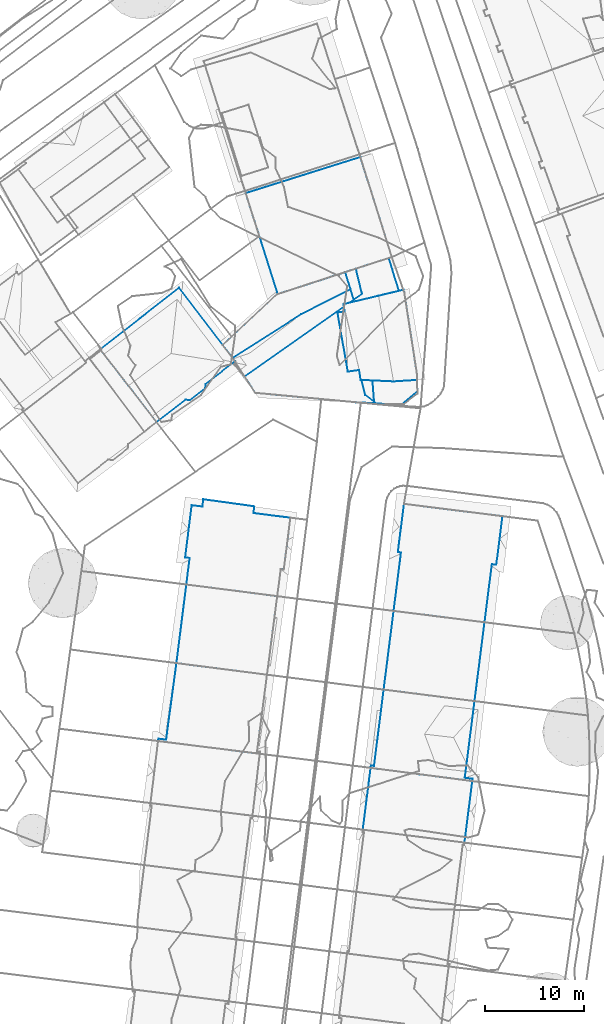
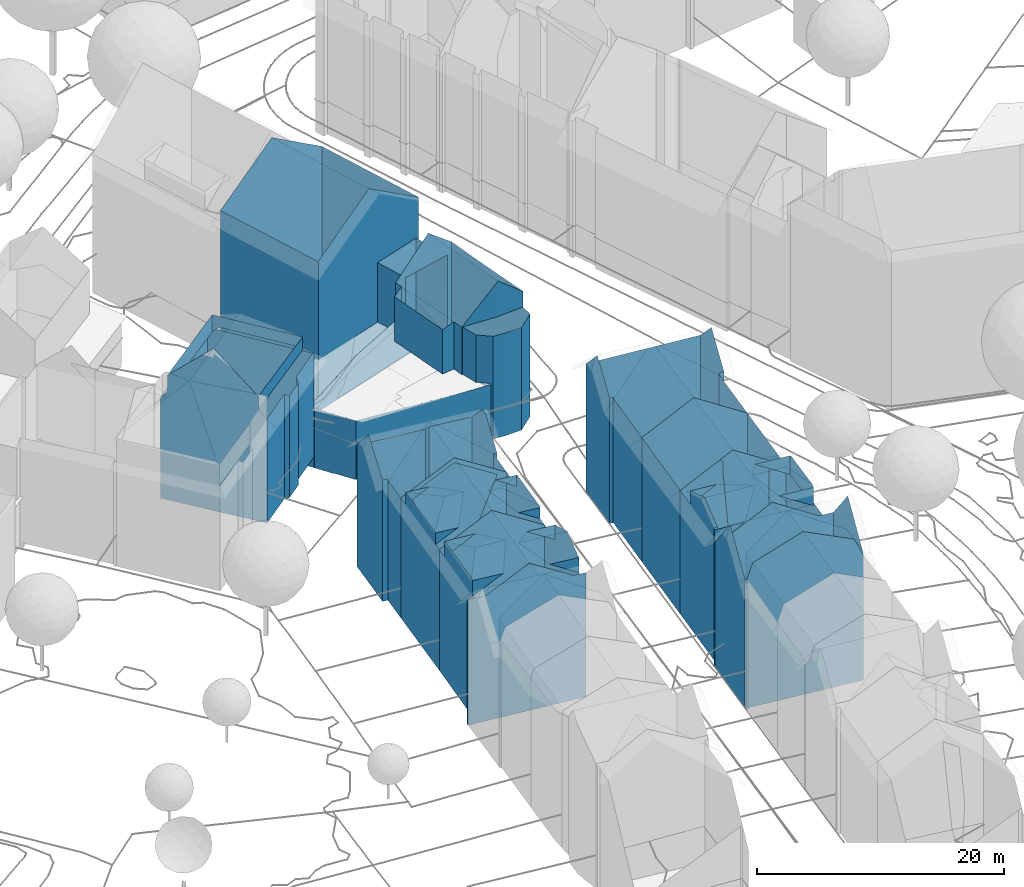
# Not in any storey, part 40 of 477: 10 walls.
"""IFC4 building model written with IfcOpenShell, lengths in metres."""

import ifcopenshell
import ifcopenshell.guid

model = None  # the IFC model being written
_history = None  # IfcOwnerHistory: only IFC2X3 demands one
_inside = {}  # id of a spatial element -> (the spatial element, [elements in it])
_under = {}  # id of a project, library or spatial element -> (it, [spatial elements below it])
_declared = {}  # id of a project -> (the project, [libraries it declares])
_typed = {}  # id of a type object -> (the type object, [elements of that type])
_made_of = {}  # id of a material, layer set ... -> (it, [elements and type objects made of it])


def new_model(schema):
    """Start an empty IFC model of exactly this schema.

    Asked for "IFC4X3", IfcOpenShell would pick the latest addendum, in which some entities
    have other attributes; the version numbers below select the first issue.
    IFC2X3 requires an IfcOwnerHistory on every rooted entity: one is made here for all.
    """
    global model, _history
    if schema == "IFC4X3":
        model = ifcopenshell.file(schema_version=(4, 3, 0, 0))
    else:
        model = ifcopenshell.file(schema=schema)
    _inside.clear()
    _under.clear()
    _declared.clear()
    _typed.clear()
    _made_of.clear()
    _history = None
    if model.schema == "IFC2X3":
        org = make("IfcOrganization", Name="unknown")
        user = make(
            "IfcPersonAndOrganization",
            ThePerson=make("IfcPerson", FamilyName="unknown"),
            TheOrganization=org,
        )
        app = make(
            "IfcApplication",
            ApplicationDeveloper=org,
            Version="unknown",
            ApplicationFullName="unknown",
            ApplicationIdentifier="unknown",
        )
        _history = make(
            "IfcOwnerHistory",
            OwningUser=user,
            OwningApplication=app,
            ChangeAction="ADDED",
            CreationDate=0,
        )
    return model


def make(cls, **values):
    """One entity of the class cls with the attributes given. An attribute that is None is left unset."""
    return model.create_entity(
        cls, **{name: value for name, value in values.items() if value is not None}
    )


def rooted(cls, **values):
    """An entity with a GlobalId (a new one), such as an element, a storey or a relation."""
    return make(cls, GlobalId=ifcopenshell.guid.new(), OwnerHistory=_history, **values)


def si_unit(unit_type, name, prefix=None):
    """IfcSIUnit, for example si_unit("LENGTHUNIT", "METRE", prefix="MILLI")."""
    return make("IfcSIUnit", UnitType=unit_type, Prefix=prefix, Name=name)


def assignment(units):
    """IfcUnitAssignment: the units of a project."""
    return None if units is None else make("IfcUnitAssignment", Units=units)


def point(xyz):
    """IfcCartesianPoint."""
    return None if xyz is None else make("IfcCartesianPoint", Coordinates=xyz)


def direction(xyz):
    """IfcDirection."""
    return None if xyz is None else make("IfcDirection", DirectionRatios=xyz)


def frame(location, z_axis=None, x_axis=None):
    """IfcAxis2Placement3D, a coordinate frame: its origin and axes. An axis left out is left unset."""
    return make(
        "IfcAxis2Placement3D",
        Location=point(location),
        Axis=direction(z_axis),
        RefDirection=direction(x_axis),
    )


def origin_with_axes():
    """The frame at (0, 0, 0) with the z axis (0, 0, 1) and the x axis (1, 0, 0) written out."""
    return frame((0.0, 0.0, 0.0), z_axis=(0.0, 0.0, 1.0), x_axis=(1.0, 0.0, 0.0))


def place(relative_to, where):
    """IfcLocalPlacement: puts the frame where relative to a parent placement (None: the world)."""
    return make(
        "IfcLocalPlacement", PlacementRelTo=relative_to, RelativePlacement=where
    )


def context(
    kind, dimensions, precision=None, world=None, true_north=None, identifier=None
):
    """IfcGeometricRepresentationContext, for example the 3D "Model" context."""
    return make(
        "IfcGeometricRepresentationContext",
        ContextIdentifier=identifier,
        ContextType=kind,
        CoordinateSpaceDimension=dimensions,
        Precision=precision,
        WorldCoordinateSystem=world,
        TrueNorth=true_north,
    )


def subcontext(parent, identifier, kind, view, scale=None):
    """IfcGeometricRepresentationSubContext, for example "Body" below "Model"."""
    return make(
        "IfcGeometricRepresentationSubContext",
        ContextIdentifier=identifier,
        ContextType=kind,
        ParentContext=parent,
        TargetScale=scale,
        TargetView=view,
    )


def project(units=None, contexts=None):
    """IfcProject with its units and contexts."""
    return rooted(
        "IfcProject",
        Name="project",
        RepresentationContexts=contexts,
        UnitsInContext=assignment(units),
    )


def spatial(cls, under=None, at=None, **own):
    """A site, building, storey or space (cls), placed at a placement, below another one or the project."""
    s = rooted(cls, ObjectPlacement=at, **own)
    if under is not None:
        _under.setdefault(under.id(), (under, []))[1].append(s)
    return s


def point_list(points):
    """IfcCartesianPointList2D or 3D."""
    cls = (
        "IfcCartesianPointList2D" if len(points[0]) == 2 else "IfcCartesianPointList3D"
    )
    return make(cls, CoordList=points)


def polygons(points, faces, closed=None, point_numbers=None):
    """IfcPolygonalFaceSet: a face is its outer loop, then its inner loops; points numbered from 1."""
    made = []
    for loops in faces:
        if len(loops) == 1:
            made.append(make("IfcIndexedPolygonalFace", CoordIndex=loops[0]))
        else:
            made.append(
                make(
                    "IfcIndexedPolygonalFaceWithVoids",
                    CoordIndex=loops[0],
                    InnerCoordIndices=loops[1:],
                )
            )
    return make(
        "IfcPolygonalFaceSet",
        Coordinates=point_list(points),
        Closed=closed,
        Faces=made,
        PnIndex=point_numbers,
    )


def shape(context_of_items, identifier, shape_type, items):
    """IfcShapeRepresentation: the items that make up one representation, for example the "Body"."""
    return make(
        "IfcShapeRepresentation",
        ContextOfItems=context_of_items,
        RepresentationIdentifier=identifier,
        RepresentationType=shape_type,
        Items=items,
    )


def made_of(thing, what):
    """Note that an element or type object is made of a material, layer set ...; save() writes the relation."""
    if what is not None:
        _made_of.setdefault(what.id(), (what, []))[1].append(thing)
    return thing


def element(
    cls,
    number,
    at=None,
    inside=None,
    cuts=None,
    type_object=None,
    material=None,
    context=None,
    identifier="Body",
    shape_type=None,
    held_by="IfcProductDefinitionShape",
    body=None,
    shapes=None,
    **own,
):
    """One element of the class cls, such as IfcWall. Its Tag is "e" and its number.

    at: its placement. inside: the storey or other place that contains it. cuts: it is an
    opening in that element (IfcRelVoidsElement). A single representation is given by context,
    identifier, shape_type and body (its items); several are given by shapes. held_by: the class
    of the entity that holds the representations. save() writes the other relations.
    """
    e = rooted(cls, Tag="e%d" % number, ObjectPlacement=at, **own)
    if body is not None:
        shapes = [shape(context, identifier, shape_type, body)]
    if shapes is not None:
        e.Representation = make(held_by, Representations=shapes)
    if inside is not None:
        _inside.setdefault(inside.id(), (inside, []))[1].append(e)
    if cuts is not None:
        rooted(
            "IfcRelVoidsElement", RelatingBuildingElement=cuts, RelatedOpeningElement=e
        )
    if type_object is not None:
        _typed.setdefault(type_object.id(), (type_object, []))[1].append(e)
    return made_of(e, material)


def aggregate(whole, parts):
    """IfcRelAggregates: a whole, such as a stair, and the parts it consists of."""
    return rooted("IfcRelAggregates", RelatingObject=whole, RelatedObjects=parts)


def save(model, path):
    """Write the relations noted so far, then the file.

    IfcRelAggregates (storeys below a building ...), IfcRelContainedInSpatialStructure (elements
    in a storey), IfcRelDefinesByType, IfcRelAssociatesMaterial and IfcRelDeclares: one each for
    every whole, place, type object, material and project.
    """
    for whole, parts in _under.values():
        aggregate(whole, parts)
    for where, things in _inside.values():
        rooted(
            "IfcRelContainedInSpatialStructure",
            RelatedElements=things,
            RelatingStructure=where,
        )
    for kind, things in _typed.values():
        rooted("IfcRelDefinesByType", RelatedObjects=things, RelatingType=kind)
    for what, things in _made_of.values():
        rooted("IfcRelAssociatesMaterial", RelatedObjects=things, RelatingMaterial=what)
    for by, libraries in _declared.values():
        rooted("IfcRelDeclares", RelatingContext=by, RelatedDefinitions=libraries)
    model.write(path)


model = new_model("IFC4")

# Units and contexts
model_context = context("Model", 3, precision=1e-05, world=origin_with_axes())
body_context = subcontext(model_context, "Body", "Model", "MODEL_VIEW")
ifc_project = project(units=[si_unit("AREAUNIT", "SQUARE_METRE"), si_unit("LENGTHUNIT", "METRE")], contexts=[model_context])

# Sites, building
site_1_placement = place(None, origin_with_axes())
site_1 = spatial("IfcSite", under=ifc_project, at=site_1_placement, Name="Topoexport Site")
site_2_placement = place(site_1_placement, origin_with_axes())
site_2 = spatial("IfcSite", under=site_1, at=site_2_placement, Name="TPX_BUILDINGS")
building_1_placement = place(site_2_placement, frame((440.3257320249, 86.1922160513, 499.5705), z_axis=(0.0, 0.0, 1.0), x_axis=(1.0, 0.0, 0.0)))
building_1 = spatial("IfcBuilding", under=site_2, at=building_1_placement, Name="Building 45", CompositionType="ELEMENT")

# Wall
wall_1_placement = place(None, frame((440.3257320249, 86.1922160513, 499.5705), z_axis=(0.0, 0.0, 1.0), x_axis=(1.0, 0.0, 0.0)))
element("IfcWall", 1, at=wall_1_placement, inside=building_1, Name="Wall 0", context=body_context, shape_type="Tessellation", body=[
    polygons([(10.006000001, -1.0321999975, 0.0), (10.3030000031, -1.0713, 0.0), (10.3030000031, -1.0713, 12.0308), (10.2780000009, -1.2870999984, 12.2518), (10.2780000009, -1.2870999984, 9.1891), (10.2780000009, -1.2870999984, 6.1254), (0.0, 0.0, 0.0), (0.0300000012, 0.2432000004, 0.0), (0.0, 0.0, 3.7616), (0.9070000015, 0.8340000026, 11.9149), (0.9060000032, 0.8340000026, 13.4567), (3.5700000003, 0.4648000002, 13.4567), (1.7050000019, 6.7637000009, 11.9019), (4.3950000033, 6.4238000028, 13.4567), (1.7050000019, 6.7637000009, 13.4567), (10.7250000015, 4.4932000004, 11.8319), (10.7250000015, 4.4932000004, 13.2887), (8.2420000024, 4.8280999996, 13.2887), (10.0840000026, -0.4355999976, 11.8089), (7.5610000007, -0.0878999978, 13.2887), (10.0840000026, -0.4355999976, 13.2887), (6.4160000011, 7.2919999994, 0.0), (1.8550000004, 7.876000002, 11.8999), (1.8550000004, 7.876000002, 0.0), (6.4160000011, 7.2919999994, 14.5366), (11.0130000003, 6.7030999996, 11.8429), (11.0130000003, 6.7030999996, 0.0), (0.0300000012, 0.2432000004, 12.1388), (0.814000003, 0.1484000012, 12.1258), (0.814000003, 0.1484000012, 0.0), (5.3150000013, -0.6659999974, 14.5366), (9.1900000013, -1.1513999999, 12.2668), (1.5620000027, -0.1963, 12.3688), (5.3150000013, -0.6659999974, 0.0), (10.2780000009, -1.2870999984, 0.0), (0.0, 0.0, 12.3878), (1.5620000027, -0.1963, 0.0), (0.8420000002, 0.3535000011, 11.9159), (0.9200000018, 0.938500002, 13.4847), (0.8420000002, 0.3535000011, 0.0), (0.9420000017, 1.1035000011, 13.5297), (1.6760000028, 6.5488000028, 13.5197), (10.0940000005, -0.3594000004, 13.3217), (10.3950000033, 1.9560000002, 14.2946), (10.7250000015, 4.4932000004, 0.0), (10.006000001, -1.0321999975, 9.0251), (10.006000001, -1.0321999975, 12.0338), (10.0350000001, -0.811499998, 11.8069), (10.006000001, -1.0321999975, 4.5126)], [[[3, 2, 1]], [[2, 3, 4]], [[6, 2, 5]], [[9, 8, 7]], [[12, 11, 10]], [[15, 14, 13]], [[18, 17, 16]], [[21, 20, 19]], [[24, 23, 22]], [[26, 23, 25]], [[26, 27, 22]], [[26, 22, 23]], [[29, 8, 28]], [[29, 30, 8]], [[31, 6, 5]], [[4, 32, 5]], [[34, 6, 33]], [[35, 6, 34]], [[31, 5, 32]], [[34, 33, 9]], [[9, 33, 36]], [[7, 37, 9]], [[9, 37, 34]], [[6, 31, 33]], [[29, 38, 30]], [[10, 11, 39]], [[30, 38, 40]], [[38, 10, 40]], [[10, 39, 41]], [[41, 42, 13]], [[15, 13, 42]], [[13, 40, 10]], [[24, 40, 13]], [[23, 24, 13]], [[13, 10, 41]], [[44, 43, 19]], [[21, 19, 43]], [[44, 19, 16]], [[19, 27, 16]], [[16, 17, 44]], [[16, 27, 26]], [[45, 27, 19]], [[19, 46, 45]], [[48, 47, 46]], [[45, 49, 1]], [[45, 46, 49]], [[46, 19, 48]], [[47, 3, 46]], [[49, 46, 3]], [[3, 1, 49]], [[2, 4, 5]], [[6, 35, 2]], [[9, 36, 28]], [[28, 8, 9]]]),
])

# Building
building_2_placement = place(site_2_placement, frame((442.1807320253, 94.0682160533, 499.5705), z_axis=(0.0, 0.0, 1.0), x_axis=(1.0, 0.0, 0.0)))
building_2 = spatial("IfcBuilding", under=site_2, at=building_2_placement, Name="Building 46", CompositionType="ELEMENT")

# Wall
wall_2_placement = place(None, frame((442.1807320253, 94.0682160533, 499.5705), z_axis=(0.0, 0.0, 1.0), x_axis=(1.0, 0.0, 0.0)))
element("IfcWall", 2, at=wall_2_placement, inside=building_2, Name="Wall 0", context=body_context, shape_type="Tessellation", body=[
    polygons([(0.8729999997, 6.9442999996, 11.8499), (2.9250000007, 6.6678999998, 13.0368), (0.8740000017, 6.9442999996, 13.0368), (0.0990000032, 0.7909999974, 11.8939), (0.1000000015, 0.7909999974, 13.0368), (2.075000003, 0.5233999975, 13.0368), (9.2780000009, -0.2470999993, 11.8469), (7.3949999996, 0.0174999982, 12.9528), (9.2780000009, -0.2470999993, 12.9528), (9.9170000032, 4.6688999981, 11.8709), (9.9170000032, 4.6688999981, 12.9528), (8.075000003, 4.927699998, 12.9528), (5.6590000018, 7.3456999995, 0.0), (0.9990000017, 7.9422999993, 11.8429), (0.9990000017, 7.9422999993, 0.0), (5.6590000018, 7.3456999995, 14.5366), (10.1900000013, 6.7645999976, 11.8809), (10.1900000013, 6.7645999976, 0.0), (4.5610000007, -0.5840000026, 0.0), (9.1579999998, -1.1729000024, 11.8429), (9.1579999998, -1.1729000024, 0.0), (0.0, 0.0, 11.8999), (0.0, 0.0, 0.0), (4.5610000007, -0.5840000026, 14.5366), (0.1190000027, 0.9432999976, 13.0858), (0.8680000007, 6.8993999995, 0.0), (0.8680000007, 6.8993999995, 13.0518), (9.887000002, 4.4354999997, 13.0428), (9.3049999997, -0.0391000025, 13.0288)], [[[3, 2, 1]], [[6, 5, 4]], [[9, 8, 7]], [[12, 11, 10]], [[15, 14, 13]], [[17, 14, 16]], [[17, 18, 13]], [[17, 13, 14]], [[21, 20, 19]], [[19, 20, 22]], [[19, 22, 23]], [[22, 20, 24]], [[4, 5, 25]], [[26, 23, 4]], [[4, 23, 22]], [[4, 25, 26]], [[1, 27, 3]], [[15, 25, 1]], [[25, 15, 26]], [[14, 15, 1]], [[1, 25, 27]], [[10, 11, 28]], [[10, 18, 17]], [[18, 10, 7]], [[10, 28, 7]], [[29, 9, 7]], [[20, 21, 18]], [[7, 20, 18]], [[7, 28, 29]]]),
])

# Building
building_3_placement = place(site_2_placement, frame((443.0627320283, 104.7566160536, 499.5705), z_axis=(0.0, 0.0, 1.0), x_axis=(1.0, 0.0, 0.0)))
building_3 = spatial("IfcBuilding", under=site_2, at=building_3_placement, Name="Building 49", CompositionType="ELEMENT")

# Wall
wall_3_placement = place(None, frame((443.0627320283, 104.7566160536, 499.5705), z_axis=(0.0, 0.0, 1.0), x_axis=(1.0, 0.0, 0.0)))
element("IfcWall", 3, at=wall_3_placement, inside=building_3, Name="Wall 0", context=body_context, shape_type="Tessellation", body=[
    polygons([(10.1719999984, 0.3388999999, 13.4157), (10.2789999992, 1.1807000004, 14.2356), (10.2789999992, 1.178799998, 0.0), (10.1490000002, 0.1534000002, 2.5588), (10.0629999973, -0.5175000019, 12.5828), (9.9739999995, -1.2206999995, 0.0), (6.9019999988, 4.4824999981, 0.0), (6.987999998, 5.1581999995, 11.4229), (6.987999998, 5.1581999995, 0.0), (6.9469999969, 4.8388999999, 11.7389), (6.9019999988, 4.4824999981, 12.0919), (7.2829999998, 4.4335999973, 12.0869), (7.9679999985, 4.3456999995, 0.0), (7.9129999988, 4.3535999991, 12.0799), (9.6659999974, -1.1816000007, 0.0), (9.6659999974, -1.1816000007, 11.8959), (9.9739999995, -1.2206999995, 11.9009), (9.3079999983, -3.9238000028, 0.0), (4.7769999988, -3.3427000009, 0.0), (9.3079999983, -3.9238000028, 11.8809), (10.3859999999, 2.0244999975, 0.0), (10.3559999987, 1.7900999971, 14.2416), (10.4339999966, 2.4043000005, 13.6347), (8.9569999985, 4.2206999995, 12.0689), (10.6379999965, 4.0068999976, 0.0), (9.498999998, 4.1523999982, 0.0), (1.8369999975, 5.8720999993, 11.4229), (1.8369999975, 5.8720999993, 0.0), (1.743999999, 5.1367999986, 0.0), (0.0, 0.0, 0.0), (0.3299999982, 2.6259999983, 0.0), (0.0, 0.0, 11.9719), (0.4549999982, -0.0566000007, 11.9769), (0.4549999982, -0.0566000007, 0.0), (0.4339999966, -0.2275000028, 11.8249), (0.4339999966, -0.2275000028, 0.0), (0.2919999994, -1.3553999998, 0.0), (0.2799999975, -1.4550000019, 11.8339), (0.1169999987, -2.746100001, 0.0), (0.1169999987, -2.746100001, 11.8429), (4.7769999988, -3.3427000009, 14.5366), (1.743999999, 5.1367999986, 12.1489), (0.6629999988, 5.2744999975, 12.1609), (0.6629999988, 5.2744999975, 0.0), (0.3609999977, 2.870199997, 14.5366), (10.6379999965, 4.0068999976, 12.0499)], [[[3, 2, 1]], [[3, 1, 4]], [[1, 5, 4]], [[5, 6, 4]], [[4, 6, 3]], [[9, 8, 7]], [[11, 7, 10]], [[7, 11, 12]], [[12, 14, 13]], [[12, 13, 7]], [[17, 16, 15]], [[6, 5, 17]], [[20, 19, 18]], [[15, 16, 20]], [[18, 15, 20]], [[23, 22, 21]], [[14, 24, 13]], [[23, 21, 25]], [[13, 24, 26]], [[24, 25, 26]], [[22, 3, 21]], [[28, 27, 9]], [[29, 27, 28]], [[32, 31, 30]], [[34, 33, 32]], [[32, 30, 34]], [[36, 35, 34]], [[35, 33, 34]], [[39, 38, 37]], [[40, 38, 39]], [[38, 35, 37]], [[35, 36, 37]], [[41, 40, 19]], [[43, 42, 29]], [[31, 45, 44]], [[43, 29, 44]], [[8, 10, 7]], [[17, 15, 6]], [[41, 19, 20]], [[23, 25, 46]], [[46, 25, 24]], [[2, 3, 22]], [[8, 9, 27]], [[27, 29, 42]], [[45, 31, 32]], [[40, 39, 19]], [[43, 44, 45]]]),
])

# Building
building_4_placement = place(site_2_placement, frame((461.8007320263, 83.4783160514, 499.4055), z_axis=(0.0, 0.0, 1.0), x_axis=(1.0, 0.0, 0.0)))
building_4 = spatial("IfcBuilding", under=site_2, at=building_4_placement, Name="Building 54", CompositionType="ELEMENT")

# Wall
wall_4_placement = place(None, frame((461.8007320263, 83.4783160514, 499.4055), z_axis=(0.0, 0.0, 1.0), x_axis=(1.0, 0.0, 0.0)))
element("IfcWall", 4, at=wall_4_placement, inside=building_4, Name="Wall 0", context=body_context, shape_type="Tessellation", body=[
    polygons([(10.504999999, 6.7481000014, 0.0), (9.5230000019, -0.9912, 0.0), (10.504999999, 6.7481000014, 12.1808), (9.5230000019, -0.9912, 12.2248), (10.3080000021, -1.0936999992, 0.0), (10.3080000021, -1.0936999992, 12.2378), (0.3489999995, 0.2070000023, 13.6167), (0.0320000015, 0.2481000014, 0.0), (0.2199999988, 0.2246000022, 4.4676), (0.2290000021, 0.2237000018, 0.0), (0.3489999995, 0.2071000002, 0.0), (0.3489999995, 0.2071000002, 10.212), (0.3489999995, 0.2071000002, 3.4027), (0.0080000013, 0.0655000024, 13.5367), (2.6339999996, -0.2421999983, 13.5367), (0.569000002, -0.0009999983, 12.2988), (0.0080000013, 0.0655000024, 12.2988), (1.0560000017, 5.8027999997, 12.1878), (3.300999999, 5.5391000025, 13.5367), (1.0560000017, 5.8027999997, 13.5367), (8.7230000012, 5.3993999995, 13.1437), (9.5419999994, 5.3037, 14.1986), (6.9679999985, 5.6055000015, 14.1996), (10.0289999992, 5.246100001, 12.3588), (10.0289999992, 5.246100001, 14.2006), (9.9910000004, 4.9209000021, 14.3076), (9.5089999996, 0.8262000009, 12.3588), (9.4640000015, 0.4405000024, 12.3588), (9.4640000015, 0.4405000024, 14.1876), (9.5089999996, 0.8262000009, 14.3076), (9.0439999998, 0.4893000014, 12.6108), (9.0439999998, 0.4893000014, 14.1856), (7.6050000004, 0.6592000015, 13.4767), (8.050999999, 0.6064999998, 13.2087), (6.425999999, 0.7988000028, 14.1856), (10.2780000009, -1.3319999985, 0.0), (10.2780000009, -1.3319999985, 12.5228), (4.6160000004, 7.4951000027, 0.0), (1.3229999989, 7.9131000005, 12.1988), (1.3229999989, 7.9131000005, 0.0), (5.9039999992, 7.3311000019, 0.0), (5.9039999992, 7.3311000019, 14.9506), (4.6160000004, 7.4951000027, 14.1796), (9.0280000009, -1.1699000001, 0.0), (9.0280000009, -1.1699000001, 12.5048), (4.9730000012, -0.6435000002, 0.0), (4.9730000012, -0.6435000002, 14.9466), (0.7069999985, -0.0918000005, 0.0), (0.0, 0.0, 12.3768), (0.7069999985, -0.0918000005, 12.3868), (0.0, 0.0, 0.0), (0.0320000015, 0.2481000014, 13.6187), (1.0560000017, 5.8027999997, 0.0), (0.4750000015, 1.2061000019, 0.0), (0.6799999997, 2.8300999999, 14.7936)], [[[3, 2, 1]], [[6, 5, 4]], [[9, 8, 7]], [[8, 9, 10]], [[10, 9, 11]], [[13, 9, 12]], [[13, 11, 9]], [[16, 15, 14]], [[14, 17, 16]], [[20, 19, 18]], [[23, 22, 21]], [[21, 25, 24]], [[25, 21, 22]], [[25, 26, 24]], [[26, 27, 24]], [[30, 29, 28]], [[28, 27, 30]], [[30, 27, 26]], [[28, 29, 31]], [[33, 29, 32]], [[33, 34, 29]], [[34, 31, 29]], [[33, 32, 35]], [[5, 37, 36]], [[37, 5, 6]], [[40, 39, 38]], [[41, 38, 39]], [[39, 1, 41]], [[43, 42, 3]], [[3, 1, 43]], [[43, 1, 39]], [[36, 45, 44]], [[45, 36, 37]], [[46, 44, 45]], [[45, 47, 46]], [[50, 49, 48]], [[50, 48, 46]], [[48, 49, 51]], [[50, 46, 47]], [[8, 51, 49]], [[14, 52, 17]], [[8, 49, 17]], [[8, 17, 52]], [[53, 13, 12]], [[54, 13, 53]], [[54, 11, 13]], [[12, 55, 18]], [[18, 55, 20]], [[40, 53, 18]], [[18, 39, 40]], [[12, 18, 53]], [[12, 7, 55]], [[4, 2, 3]], [[2, 4, 5]], [[52, 7, 8]], [[9, 7, 12]]]),
])

# Building
building_5_placement = place(site_2_placement, frame((463.1237320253, 91.3914160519, 499.4055), z_axis=(0.0, 0.0, 1.0), x_axis=(1.0, 0.0, 0.0)))
building_5 = spatial("IfcBuilding", under=site_2, at=building_5_placement, Name="Building 55", CompositionType="ELEMENT")

# Wall
wall_5_placement = place(None, frame((463.1237320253, 91.3914160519, 499.4055), z_axis=(0.0, 0.0, 1.0), x_axis=(1.0, 0.0, 0.0)))
element("IfcWall", 5, at=wall_5_placement, inside=building_5, Name="Wall 0", context=body_context, shape_type="Tessellation", body=[
    polygons([(1.6009999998, 7.875, 0.0), (5.5230000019, 7.3867000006, 0.0), (1.6009999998, 7.875, 12.5998), (4.5810000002, -0.5810000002, 0.0), (3.2930000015, -0.4179999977, 14.1796), (4.5810000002, -0.5810000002, 14.9506), (9.939000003, 4.8125, 0.0), (9.643000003, 2.4756000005, 12.1608), (10.1920000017, 6.8047000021, 0.0), (10.1920000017, 6.8047000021, 12.1368), (9.182, -1.1649999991, 0.0), (5.5230000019, 7.3867000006, 14.9476), (9.182, -1.1649999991, 12.1808), (0.0, 0.0, 0.0), (0.5210000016, 4.120099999, 12.2208), (0.0, 0.0, 12.1988), (0.6810000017, 5.3896999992, 0.0), (1.0050000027, 7.9501999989, 12.2408), (0.7589999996, 6.0058999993, 12.2308), (1.0050000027, 7.9501999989, 0.0), (3.2930000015, -0.4179999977, 0.0)], [[[3, 2, 1]], [[6, 5, 4]], [[9, 8, 7]], [[10, 8, 9]], [[7, 8, 11]], [[12, 10, 2]], [[11, 13, 6]], [[4, 11, 6]], [[16, 15, 14]], [[14, 15, 17]], [[19, 18, 17]], [[20, 17, 18]], [[5, 14, 21]], [[14, 5, 16]], [[18, 1, 20]], [[1, 18, 3]], [[12, 2, 3]], [[5, 21, 4]], [[13, 11, 8]], [[10, 9, 2]], [[15, 19, 17]]]),
])

# Building
building_6_placement = place(site_2_placement, frame((461.0127320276, 77.240016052, 499.4055), z_axis=(0.0, 0.0, 1.0), x_axis=(1.0, 0.0, 0.0)))
building_6 = spatial("IfcBuilding", under=site_2, at=building_6_placement, Name="Building 57", CompositionType="ELEMENT")

# Wall
wall_6_placement = place(None, frame((461.0127320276, 77.240016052, 499.4055), z_axis=(0.0, 0.0, 1.0), x_axis=(1.0, 0.0, 0.0)))
element("IfcWall", 6, at=wall_6_placement, inside=building_6, Name="Wall 0", context=body_context, shape_type="Tessellation", body=[
    polygons([(0.6829999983, 5.3984999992, 0.0), (0.7879999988, 6.2382999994, 12.3768), (0.6889999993, 5.4433999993, 13.3247), (0.7879999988, 6.2382999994, 0.0), (0.5109999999, 4.0214999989, 15.0205), (1.4949999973, 6.1464999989, 12.3868), (1.4949999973, 6.1464999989, 0.0), (9.4769999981, -1.2098999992, 0.0), (5.0350000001, -0.6435000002, 0.0), (9.4769999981, -1.2098999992, 14.1246), (0.6469999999, -0.0830000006, 14.2016), (5.0350000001, -0.6435000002, 16.0924), (0.6469999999, -0.0830000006, 0.0), (0.1349999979, -0.0185000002, 12.7048), (0.0, 0.0, 12.7068), (0.1959999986, 1.5372000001, 0.0), (0.2719999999, 2.1328999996, 15.0195), (0.0, 0.0, 0.0), (0.3979999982, 3.1231000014, 0.0), (0.1349999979, -0.0185000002, 0.0), (10.7149999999, 2.1358000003, 8.7851), (10.7589999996, 2.4785999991, 15.4175), (10.743999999, 2.3594000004, 3.4906), (10.8000000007, 2.8066999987, 15.0275), (10.7980000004, 2.7872000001, 0.0), (10.686999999, 1.9131000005, 16.0924), (10.5889999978, 1.1436000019, 15.2245), (10.6799999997, 1.8603999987, 0.0), (10.4829999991, 0.3027999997, 0.0), (10.379999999, -0.5058000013, 1.2939), (10.4120000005, -0.2518999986, 13.6487), (10.2780000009, -1.3125, 0.0), (10.2780000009, -1.3125, 12.4538), (10.2249999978, -1.3055999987, 12.4538), (10.8929999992, 3.5390999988, 14.1546), (5.7609999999, 5.5947999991, 0.0), (9.8159999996, 5.0683999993, 12.5048), (5.7609999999, 5.5947999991, 14.9466), (11.0659999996, 4.9052999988, 12.5228), (11.0659999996, 4.9052999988, 0.0), (9.8159999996, 5.0683999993, 0.0), (0.3979999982, 3.1220999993, 16.0924)], [[[3, 2, 1]], [[1, 2, 4]], [[5, 3, 1]], [[4, 2, 6]], [[7, 4, 6]], [[10, 9, 8]], [[12, 11, 9]], [[11, 14, 13]], [[17, 16, 15]], [[16, 18, 15]], [[17, 19, 16]], [[14, 18, 20]], [[18, 14, 15]], [[23, 22, 21]], [[25, 24, 22]], [[21, 22, 26]], [[26, 27, 21]], [[27, 28, 21]], [[23, 21, 28]], [[23, 28, 25]], [[28, 27, 29]], [[29, 31, 30]], [[29, 30, 32]], [[33, 32, 30]], [[32, 33, 34]], [[34, 8, 32]], [[25, 35, 24]], [[38, 37, 36]], [[40, 39, 25]], [[37, 39, 41]], [[39, 40, 41]], [[6, 36, 7]], [[5, 1, 19]], [[5, 19, 42]], [[12, 9, 10]], [[11, 13, 9]], [[14, 20, 13]], [[42, 19, 17]], [[25, 22, 23]], [[27, 31, 29]], [[30, 31, 33]], [[10, 8, 34]], [[37, 41, 36]], [[35, 25, 39]], [[38, 36, 6]]]),
])

# Building
building_7_placement = place(site_2_placement, frame((464.128732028, 99.3416160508, 499.4055), z_axis=(0.0, 0.0, 1.0), x_axis=(1.0, 0.0, 0.0)))
building_7 = spatial("IfcBuilding", under=site_2, at=building_7_placement, Name="Building 61", CompositionType="ELEMENT")

# Wall
wall_7_placement = place(None, frame((464.128732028, 99.3416160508, 499.4055), z_axis=(0.0, 0.0, 1.0), x_axis=(1.0, 0.0, 0.0)))
element("IfcWall", 7, at=wall_7_placement, inside=building_7, Name="Wall 0", context=body_context, shape_type="Tessellation", body=[
    polygons([(1.0449999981, 10.818400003, 12.6188), (1.0449999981, 10.818400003, 0.0), (10.9979999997, 9.5762000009, 0.0), (0.7929999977, 8.8242000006, 14.6066), (0.75, 8.4863000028, 8.0942), (0.7520000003, 8.501000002, 0.0), (10.7149999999, 7.3154000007, 14.9436), (10.9979999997, 9.5762000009, 12.6898), (10.7149999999, 7.3154000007, 0.0), (0.6699999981, 7.8545000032, 6.8314), (0.6289999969, 7.5234000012, 13.9677), (0.5810000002, 7.1425999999, 3.3077), (0.430999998, 5.9570000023, 12.3798), (0.430999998, 5.9570000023, 0.0), (0.75, 8.4863000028, 14.9436), (0.7479999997, 5.9170000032, 12.3768), (0.7479999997, 5.9170000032, 0.0), (0.7339999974, 5.8096000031, 12.2678), (0.7329999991, 5.8018000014, 0.0), (9.9199999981, 4.6475000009, 12.1848), (9.930999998, 4.7314000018, 12.2698), (9.930999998, 4.7314000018, 0.0), (9.9120000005, 4.5830000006, 0.0), (9.9100000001, 4.568400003, 12.1058), (10.3770000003, 4.6738000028, 0.0), (10.3770000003, 4.6738000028, 12.2658), (9.186999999, -1.1454999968, 12.1368), (9.186999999, -1.1454999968, 0.0), (4.5179999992, -0.5625, 14.9476), (4.5179999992, -0.5625, 0.0), (0.0, 0.0, 12.2408), (0.0, 0.0, 0.0), (0.129999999, 1.0313000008, 0.0), (0.2229999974, 1.7637000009, 4.5936), (0.1529999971, 1.2061000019, 12.2468), (0.5969999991, -0.0741999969, 0.0), (0.5969999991, -0.0741999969, 12.5998), (0.3019999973, 2.3877000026, 12.2528), (0.4969999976, 3.9287, 12.2598), (0.3509999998, 2.7754000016, 3.0537)], [[[3, 2, 1]], [[6, 5, 4]], [[4, 1, 6]], [[2, 6, 1]], [[3, 8, 7]], [[7, 9, 3]], [[12, 11, 10]], [[14, 13, 11]], [[14, 11, 12]], [[15, 4, 11]], [[4, 5, 11]], [[11, 5, 10]], [[10, 5, 12]], [[5, 6, 12]], [[12, 6, 14]], [[17, 16, 13]], [[13, 14, 17]], [[19, 18, 17]], [[16, 17, 18]], [[22, 21, 20]], [[22, 20, 23]], [[24, 23, 20]], [[26, 21, 25]], [[21, 22, 25]], [[9, 7, 25]], [[7, 26, 25]], [[27, 23, 24]], [[23, 27, 28]], [[28, 27, 29]], [[30, 28, 29]], [[33, 32, 31]], [[35, 34, 33]], [[37, 32, 36]], [[32, 37, 31]], [[34, 38, 19]], [[19, 38, 39]], [[39, 18, 19]], [[33, 34, 40]], [[40, 19, 33]], [[40, 34, 19]], [[29, 37, 30]], [[8, 3, 1]], [[31, 35, 33]], [[38, 34, 35]], [[37, 36, 30]]]),
])

# Building
building_8_placement = place(site_2_placement, frame((449.1887320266, 141.5721160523, 498.8726), z_axis=(0.0, 0.0, 1.0), x_axis=(1.0, 0.0, 0.0)))
building_8 = spatial("IfcBuilding", under=site_2, at=building_8_placement, Name="Building 71", CompositionType="ELEMENT")

# Wall
wall_8_placement = place(None, frame((449.1887320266, 141.5721160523, 498.8726), z_axis=(0.0, 0.0, 1.0), x_axis=(1.0, 0.0, 0.0)))
element("IfcWall", 8, at=wall_8_placement, inside=building_8, Name="Wall 0", context=body_context, shape_type="Tessellation", body=[
    polygons([(14.7690000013, -6.4512000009, 0.0), (11.8090000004, -7.4131000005, 16.9184), (14.7690000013, -6.4512000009, 14.8616), (11.8139999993, -7.4111999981, 0.0), (9.0929999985, -8.2949000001, 0.0), (9.0549999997, -8.308600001, 18.8312), (11.5839999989, 3.6523000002, 0.0), (12.8099999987, -0.2373000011, 14.8606), (11.5839999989, 3.6523000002, 14.8606), (12.9770000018, -0.7685999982, 0.0), (5.8530000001, 1.8456999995, 0.0), (5.8530000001, 1.8456999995, 18.8312), (7.4050000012, -8.8447999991, 17.6903), (6.0689999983, -9.2782999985, 0.0), (3.2380000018, -10.1983000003, 14.8096), (3.2380000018, -10.1983000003, 0.0), (0.0, 0.0, 14.7966), (1.254999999, -3.9532000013, 14.8016), (2.0240000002, -6.3740999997, 0.0), (0.8090000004, -2.5498000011, 0.0), (0.0, 0.0, 0.0)], [[[3, 2, 1]], [[2, 4, 1]], [[2, 5, 4]], [[6, 5, 2]], [[9, 8, 7]], [[7, 8, 10]], [[1, 10, 8]], [[12, 7, 11]], [[7, 12, 9]], [[6, 13, 5]], [[13, 14, 5]], [[13, 15, 14]], [[14, 15, 16]], [[11, 17, 12]], [[16, 15, 18]], [[19, 16, 18]], [[19, 18, 20]], [[20, 18, 21]], [[21, 18, 17]], [[3, 1, 8]], [[21, 17, 11]]]),
])

# Building
building_9_placement = place(site_2_placement, frame((446.8647320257, 126.2293160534, 498.9746), z_axis=(0.0, 0.0, 1.0), x_axis=(1.0, 0.0, 0.0)))
building_9 = spatial("IfcBuilding", under=site_2, at=building_9_placement, Name="Building 73", CompositionType="ELEMENT")

# Wall
wall_9_placement = place(None, frame((446.8647320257, 126.2293160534, 498.9746), z_axis=(0.0, 0.0, 1.0), x_axis=(1.0, 0.0, 0.0)))
element("IfcWall", 9, at=wall_9_placement, inside=building_9, Name="Wall 0", context=body_context, shape_type="Tessellation", body=[
    polygons([(17.2440000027, -3.6895000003, 0.4289), (19.637000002, -3.5371000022, 0.4289), (19.637000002, -3.5371000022, -0.04), (17.2440000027, -3.6895000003, -0.04), (15.131000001, -3.5928000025, 0.035), (15.131000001, -3.5928000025, 0.4289), (13.9420000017, -3.5371000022, -0.04), (13.9420000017, -3.5371000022, 0.035), (13.7829999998, -2.5303000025, 0.035), (18.2550000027, 5.5810999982, 11.9468), (18.2550000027, 5.5810999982, -0.04), (18.3520000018, 5.3046999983, 11.9029), (18.3520000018, 5.3046999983, 8.9061), (18.3520000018, 5.3046999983, 5.9094), (18.3520000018, 5.3046999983, -0.04), (18.3520000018, 5.3046999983, 2.9127), (12.2490000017, 3.8838, 0.0), (12.3340000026, 3.4003999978, 0.035), (12.3340000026, 3.4003999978, -0.04), (12.2490000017, 3.8838, 0.035), (12.2060000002, 4.1317999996, -0.04), (12.2060000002, 4.1317999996, 0.0), (12.6410000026, -2.6982000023, -0.04), (13.7829999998, -2.5303000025, -0.04), (12.6410000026, -2.6982000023, 0.035), (11.5960000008, 3.2714999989, 0.035), (11.5960000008, 3.2714999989, -0.04), (13.2910000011, 4.3905999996, 10.88), (13.2910000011, 4.3905999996, 5.8744), (12.9100000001, 5.6386999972, 5.8744), (12.3839999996, 7.3612999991, 4.9995), (12.3839999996, 7.3612999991, 10.88), (12.9100000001, 5.6386999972, 4.9995), (16.7880000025, 8.7919999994, 0.035), (17.8000000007, 5.4716999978, 10.88), (16.7880000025, 8.7919999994, 10.88), (13.5, -5.8047000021, 0.035), (3.3000000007, -4.8496000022, 5.8744), (13.5, -5.8047000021, 5.8744), (15.3060000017, -5.8905999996, 0.035), (15.3060000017, -5.8905999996, 5.8744), (16.5760000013, -5.9970999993, 0.4289), (15.5030000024, -5.9033000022, 10.556), (16.5760000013, -5.9970999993, 10.556), (18.1380000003, -5.9580000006, 0.4289), (18.1380000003, -5.9580000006, 10.556), (19.6750000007, -4.6504000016, 0.4289), (19.6750000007, -4.6504000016, 10.556), (15.2950000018, -5.7412, 0.4289), (15.2950000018, -5.7412, 5.8744), (15.5030000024, -5.9033000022, 0.4289), (14.3969999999, -5.0459000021, 5.8744), (14.3969999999, -5.0459000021, 10.556), (17.2440000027, -3.6895000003, 14.0676), (19.637000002, -3.5371000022, 12.1198), (19.637000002, -3.5371000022, 10.556), (17.2440000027, -3.6895000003, 10.556), (14.0300000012, -3.5419999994, 10.556), (13.9420000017, -3.5371000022, 5.8744), (13.9420000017, -3.5371000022, 10.556), (14.0300000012, -3.5419999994, 5.8744), (13.7829999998, -2.5303000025, 10.556), (12.3340000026, 3.4003999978, 5.8744), (12.2060000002, 4.1317999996, 10.921), (12.3340000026, 3.4003999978, 10.921), (13.7829999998, -2.5303000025, 5.8744), (12.6410000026, -2.6982000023, 10.268), (12.6410000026, -2.6982000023, 5.8744), (11.5960000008, 3.2714999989, 10.268), (11.5960000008, 3.2714999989, 5.8744), (7.9330000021, 3.1122999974, 4.9995), (7.9330000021, 3.1122999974, 5.8744), (0.0, 0.0, 0.0), (5.4290000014, 5.1015999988, 4.9995), (0.0, 0.0, 4.9995), (1.0080000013, -1.3076000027, 4.9995), (1.0080000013, -1.3076000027, 5.8744), (2.2300000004, -3.1816000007, 0.0), (14.074000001, 5.1688999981, 0.0), (12.8040000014, 4.2743999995, 0.035), (14.074000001, 5.1688999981, 0.035), (13.4530000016, 7.7080000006, 0.0), (13.4530000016, 7.7080000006, 0.035), (19.6130000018, -2.8115000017, -0.04), (19.6130000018, -2.8115000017, 10.556), (19.6130000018, -2.8115000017, 12.0268), (12.8040000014, 4.2743999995, 0.0), (15.7310000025, 4.9726999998, 0.035), (15.7310000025, 4.9726999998, -0.04), (17.8000000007, 5.4716999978, 0.035), (12.2060000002, 4.1317999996, 5.8744), (15.7310000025, 4.9726999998, 14.0676), (15.7310000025, 4.9726999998, 10.88), (5.4290000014, 5.1015999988, 0.0), (3.3000000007, -4.8496000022, 0.035), (2.2300000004, -3.1816000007, 0.035), (1.2600000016, -1.6699000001, 0.0), (1.2600000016, -1.6699000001, 5.8744), (1.2530000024, -1.625, 5.8744), (1.2530000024, -1.625, 0.0), (18.8470000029, 2.1182000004, 11.9148), (18.5840000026, 3.8134999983, 11.8979), (19.0940000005, 0.5263999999, -0.04), (18.8470000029, 2.1182000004, -0.04), (18.5840000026, 3.8134999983, -0.04), (19.0940000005, 0.5263999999, 11.9398), (19.3660000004, -1.2197000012, 11.9778), (19.3660000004, -1.2197000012, -0.04)], [[[3, 2, 1]], [[1, 4, 3]], [[4, 1, 5]], [[5, 1, 6]], [[5, 8, 7]], [[5, 7, 4]], [[8, 9, 7]], [[12, 11, 10]], [[14, 11, 13]], [[16, 15, 11]], [[19, 18, 17]], [[17, 18, 20]], [[17, 22, 21]], [[17, 21, 19]], [[24, 9, 23]], [[25, 23, 9]], [[25, 26, 23]], [[27, 26, 18]], [[18, 19, 27]], [[30, 29, 28]], [[30, 32, 31]], [[32, 30, 28]], [[30, 31, 33]], [[36, 35, 34]], [[39, 38, 37]], [[41, 39, 40]], [[44, 43, 42]], [[46, 44, 45]], [[48, 46, 47]], [[51, 50, 49]], [[50, 51, 43]], [[50, 53, 52]], [[53, 50, 43]], [[56, 55, 54]], [[54, 57, 56]], [[58, 57, 54]], [[58, 60, 59]], [[60, 58, 54]], [[58, 59, 61]], [[60, 62, 59]], [[65, 64, 63]], [[62, 67, 66]], [[67, 69, 68]], [[69, 63, 70]], [[49, 5, 6]], [[41, 40, 49]], [[41, 49, 50]], [[72, 30, 71]], [[53, 58, 52]], [[75, 74, 73]], [[77, 72, 76]], [[20, 78, 17]], [[81, 80, 79]], [[83, 81, 82]], [[85, 3, 84]], [[3, 85, 2]], [[85, 47, 2]], [[86, 55, 56]], [[47, 56, 48]], [[47, 85, 56]], [[56, 85, 86]], [[21, 22, 87]], [[87, 80, 88]], [[21, 87, 89]], [[88, 89, 87]], [[89, 88, 90]], [[89, 90, 11]], [[28, 29, 91]], [[28, 64, 92]], [[93, 92, 10]], [[92, 93, 28]], [[93, 10, 35]], [[11, 90, 35]], [[10, 11, 35]], [[28, 91, 64]], [[94, 31, 82]], [[32, 36, 31]], [[31, 34, 83]], [[34, 31, 36]], [[83, 82, 31]], [[96, 95, 38]], [[96, 98, 97]], [[98, 96, 38]], [[96, 97, 78]], [[98, 99, 97]], [[100, 99, 76]], [[76, 99, 77]], [[75, 73, 76]], [[101, 14, 13]], [[12, 102, 13]], [[104, 14, 103]], [[15, 16, 105]], [[104, 105, 16]], [[16, 14, 104]], [[101, 13, 102]], [[106, 103, 14]], [[107, 86, 85]], [[106, 107, 85]], [[108, 103, 85]], [[108, 85, 84]], [[103, 106, 85]], [[106, 14, 101]], [[9, 24, 7]], [[11, 12, 13]], [[14, 16, 11]], [[26, 27, 23]], [[35, 90, 34]], [[38, 95, 37]], [[39, 37, 40]], [[43, 51, 42]], [[44, 42, 45]], [[46, 45, 47]], [[62, 66, 59]], [[64, 91, 63]], [[67, 68, 66]], [[69, 70, 68]], [[65, 63, 69]], [[40, 5, 49]], [[30, 33, 71]], [[58, 61, 52]], [[74, 94, 73]], [[72, 71, 76]], [[96, 78, 20]], [[80, 87, 79]], [[81, 79, 82]], [[74, 31, 94]], [[99, 100, 97]], [[73, 100, 76]]]),
])

# Building
building_10_placement = place(site_2_placement, frame((434.486732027, 125.7898160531, 500.0045), z_axis=(0.0, 0.0, 1.0), x_axis=(1.0, 0.0, 0.0)))
building_10 = spatial("IfcBuilding", under=site_2, at=building_10_placement, Name="Building 74", CompositionType="ELEMENT")

# Wall
wall_10_placement = place(None, frame((434.486732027, 125.7898160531, 500.0045), z_axis=(0.0, 0.0, 1.0), x_axis=(1.0, 0.0, 0.0)))
element("IfcWall", 10, at=wall_10_placement, inside=building_10, Name="Wall 0", context=body_context, shape_type="Tessellation", body=[
    polygons([(7.754999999, 5.0790999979, 10.626), (8.1330000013, 4.5751999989, 11.2489), (7.754999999, 5.0790999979, 12.3068), (12.5219999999, -1.2666000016, 12.3068), (12.5219999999, -1.2666000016, 11.0009), (12.3649999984, -1.057599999, 11.2489), (2.868999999, -3.6942999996, 14.6536), (5.2349999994, -6.7402000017, 12.3068), (5.2340000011, -6.7412, 11.0019), (2.8359999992, -3.6513000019, 14.5996), (2.8359999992, -3.6513000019, 15.9985), (0.3669999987, -0.4715999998, 10.626), (0.3669999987, -0.4715999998, 12.3068), (0.0, 0.0, 7.5273), (3.0920000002, 2.4208999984, 9.9591), (0.0, 0.0, 10.0361), (0.0, 0.0, 3.7637), (0.0, 0.0, 0.0), (2.6539999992, 2.0781999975, 0.0), (7.9609999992, 6.2324999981, 0.0), (7.9609999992, 6.2324999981, 2.3108), (7.9609999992, 6.2324999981, 4.8196), (8.6070000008, -5.0859000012, 10.336), (9.0399999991, -5.1552000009, 10.037), (8.6070000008, -5.0859000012, 0.0), (10.6030000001, -3.941399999, 0.0), (10.6030000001, -3.941399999, 10.067), (10.6440000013, -3.503899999, 2.5938), (10.6440000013, -3.503899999, 7.7813), (10.6440000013, -3.503899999, 0.0), (5.7010000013, -7.3418000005, 10.281), (5.7010000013, -7.3418000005, 7.6973), (5.7010000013, -7.3418000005, 0.0), (13.631000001, -1.1854999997, 10.213), (7.9609999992, 6.2324999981, 7.3283), (13.631000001, -1.1854999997, 0.0), (8.2419999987, 5.8652999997, 10.295), (7.9609999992, 6.2324999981, 9.8371), (13.4769999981, -1.3037, 0.0), (13.4769999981, -1.3037, 10.429), (10.6440000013, -3.503899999, 10.375), (2.868999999, -3.6942999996, 0.0), (9.0399999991, -5.1552000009, 0.0)], [[[3, 2, 1]], [[2, 3, 4]], [[6, 4, 5]], [[4, 6, 2]], [[9, 8, 7]], [[7, 11, 10]], [[11, 7, 8]], [[4, 8, 5]], [[13, 1, 12]], [[16, 15, 14]], [[14, 15, 17]], [[18, 17, 15]], [[15, 20, 19]], [[15, 19, 18]], [[21, 20, 15]], [[21, 15, 22]], [[25, 24, 23]], [[27, 24, 26]], [[29, 27, 28]], [[30, 28, 27]], [[27, 26, 30]], [[32, 23, 31]], [[25, 32, 33]], [[22, 35, 34]], [[21, 22, 36]], [[35, 38, 37]], [[36, 22, 34]], [[20, 21, 36]], [[35, 37, 34]], [[28, 39, 34]], [[28, 30, 39]], [[39, 36, 34]], [[34, 40, 29]], [[29, 40, 41]], [[34, 29, 28]], [[32, 31, 17]], [[17, 18, 32]], [[33, 32, 42]], [[32, 18, 42]], [[17, 31, 9]], [[14, 9, 10]], [[11, 13, 10]], [[10, 13, 12]], [[14, 12, 16]], [[17, 9, 14]], [[12, 14, 10]], [[9, 7, 10]], [[8, 9, 5]], [[3, 1, 13]], [[38, 35, 15]], [[35, 22, 15]], [[43, 24, 25]], [[24, 43, 26]], [[41, 27, 29]], [[25, 23, 32]]]),
])

save(model, "model.ifc")
